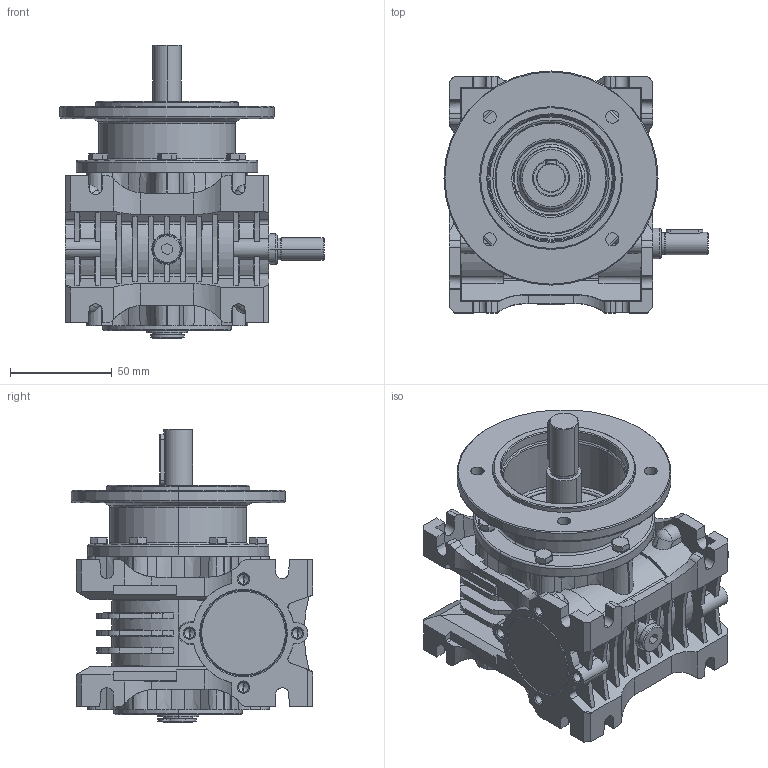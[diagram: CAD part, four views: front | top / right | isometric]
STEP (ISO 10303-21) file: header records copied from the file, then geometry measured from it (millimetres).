
FILE_DESCRIPTION (( 'STEP AP203' ), '1' );
FILE_NAME ('MR-32_WBS-K105_2-WJ_2-3D.STEP', '2022-01-26T08:07:58', ( '' ), ( '' ), 'SwSTEP 2.0', 'SolidWorks 2022', '' );
FILE_SCHEMA (( 'CONFIG_CONTROL_DESIGN' ));
Length unit declared in the file: millimetre
Products named in the file (1): MR-32_WBS-K105_2-WJ_2-3D
Bounding box: 129.5 x 118.5 x 144 mm (x, y, z)
Volume: 613161.4 mm3; surface area: 132949.7 mm2
Topology: 1 solids, 23 shells, 1571 faces, 4126 edges, 2620 vertices
Faces by surface type: plane 626, cone 459, cylinder 375, torus 56, bspline 49, sphere 6
Entity records: 50625 total; most frequent: CARTESIAN_POINT 13013, ORIENTED_EDGE 8164, DIRECTION 7637, EDGE_CURVE 4082, AXIS2_PLACEMENT_3D 2820, VERTEX_POINT 2620, VECTOR 1997, LINE 1997
